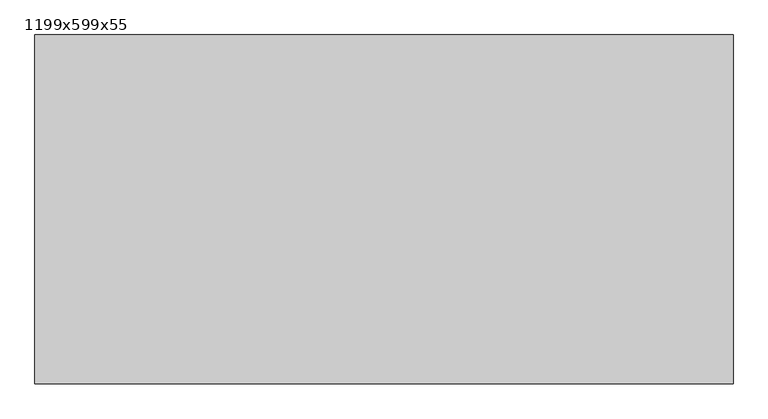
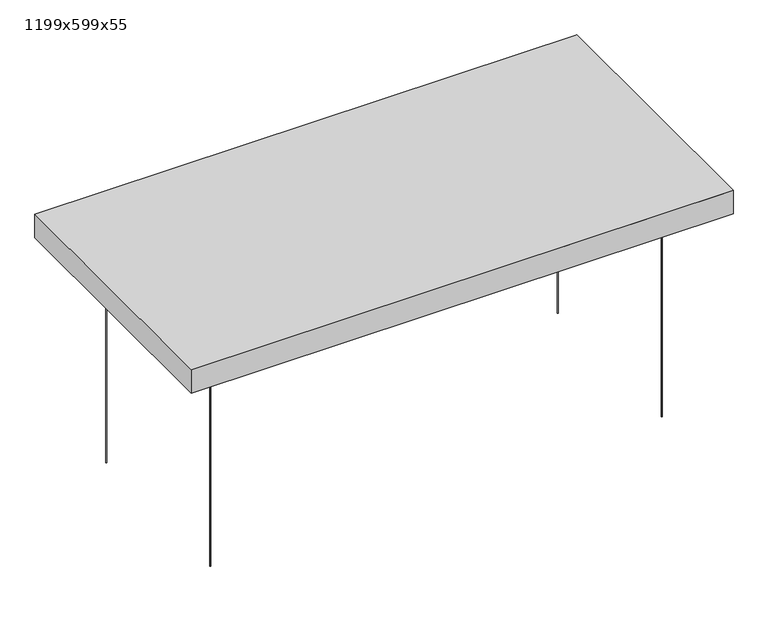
"""IFC4 building model written with IfcOpenShell, lengths in millimetres: proxy geometry, Texaa Panneaux_acoustiques Stereo suspendus_séparés : 1199x599x55."""

from ifc_helpers import new_model, si_unit, point, frame, frame_2d, origin, origin_with_axes, place, context, project, spatial, polyline, circle_curve, trimmed, segment, composite_curve, outline, extrude, faceted_brep, source, transform, mapped, element, save


def proxy_1199x599x55_33c4f349(model_context):
    return source(origin(), model_context, "Body", "SolidModel", [
        extrude(outline(composite_curve([segment(trimmed(circle_curve(frame_2d((-499.5, -199.5)), 0.75), [point((-500.25, -199.5))], [point((-498.75, -199.5))], False, "CARTESIAN"), True, "CONTINUOUS"), segment(trimmed(circle_curve(frame_2d((-499.5, -199.5)), 0.75), [point((-498.75, -199.5))], [point((-500.25, -199.5))], False, "CARTESIAN"), True, "CONTINUOUS")], self_intersect=False)), origin_with_axes(), (0.0, 0.0, 1.0), 500.0),
        extrude(outline(composite_curve([segment(trimmed(circle_curve(frame_2d((499.5, -199.5)), 0.75), [point((498.75, -199.5))], [point((500.25, -199.5))], False, "CARTESIAN"), True, "CONTINUOUS"), segment(trimmed(circle_curve(frame_2d((499.5, -199.5)), 0.75), [point((500.25, -199.5))], [point((498.75, -199.5))], False, "CARTESIAN"), True, "CONTINUOUS")], self_intersect=False)), origin_with_axes(), (0.0, 0.0, 1.0), 500.0),
        extrude(outline(composite_curve([segment(trimmed(circle_curve(frame_2d((499.5, 199.5)), 0.75), [point((498.75, 199.5))], [point((500.25, 199.5))], False, "CARTESIAN"), True, "CONTINUOUS"), segment(trimmed(circle_curve(frame_2d((499.5, 199.5)), 0.75), [point((500.25, 199.5))], [point((498.75, 199.5))], False, "CARTESIAN"), True, "CONTINUOUS")], self_intersect=False)), origin_with_axes(), (0.0, 0.0, 1.0), 500.0),
        extrude(outline(composite_curve([segment(trimmed(circle_curve(frame_2d((-499.5, 199.5)), 0.75), [point((-500.25, 199.5))], [point((-498.75, 199.5))], False, "CARTESIAN"), True, "CONTINUOUS"), segment(trimmed(circle_curve(frame_2d((-499.5, 199.5)), 0.75), [point((-498.75, 199.5))], [point((-500.25, 199.5))], False, "CARTESIAN"), True, "CONTINUOUS")], self_intersect=False)), origin_with_axes(), (0.0, 0.0, 1.0), 500.0),
        extrude(outline(polyline([(-598.5, -298.5), (-598.5, 298.5), (598.5, 298.5), (598.5, -298.5), (-598.5, -298.5)])), frame((0.0, 0.0, 501.0), z_axis=(0.0, 0.0, 1.0), x_axis=(1.0, 0.0, 0.0)), (0.0, 0.0, 1.0), 53.0),
        faceted_brep([(599.5, 299.5, 555.0), (597.2624387, 299.5, 555.0), (476.4341284, 299.5, 555.0), (-599.5, 299.5, 555.0), (-599.5, -238.0183844, 555.0), (-599.5, -298.3821524, 555.0), (-599.5, -299.5, 555.0), (599.5, -299.5, 555.0), (-599.5, -299.5, 500.0), (-599.5, 299.5, 500.0), (599.5, 299.5, 500.0), (599.5, -299.5, 500.0), (-549.5, 249.5, 500.0), (-549.5, -249.5, 500.0), (549.5, -249.5, 500.0), (549.5, 249.5, 500.0), (-599.5, -299.5, 554.0), (599.5, 299.5, 554.0), (549.5, 249.5, 501.0), (-549.5, 249.5, 501.0), (549.5, -249.5, 501.0), (-549.5, -249.5, 501.0), (598.5, -298.5, 554.0), (-597.4983306, -298.5, 554.0), (-598.5, -298.5, 554.0), (-598.5, -297.8825695, 554.0), (-598.5, -237.5188014, 554.0), (-598.5, 298.5, 554.0), (474.4324589, 298.5, 554.0), (595.2607692, 298.5, 554.0), (597.4983306, 298.5, 554.0), (598.5, 298.5, 554.0), (-598.5, -298.5, 501.0), (598.5, -298.5, 501.0), (598.5, 298.5, 501.0), (-598.5, 298.5, 501.0)], [[[0, 1, 2, 3, 4, 5, 6, 7]], [[8, 9, 10, 11], [12, 13, 14, 15]], [[8, 16, 6, 5, 4, 3, 9]], [[9, 3, 2, 1, 0, 17, 10]], [[7, 11, 10, 17, 0]], [[6, 16, 8, 11, 7]], [[12, 15, 18, 19]], [[15, 14, 20, 18]], [[14, 13, 21, 20]], [[19, 21, 13, 12]], [[22, 23, 24, 25, 26, 27, 28, 29, 30, 31]], [[32, 33, 34, 35], [18, 20, 21, 19]], [[35, 27, 26, 25, 24, 32]], [[34, 31, 30, 29, 28, 27, 35]], [[31, 34, 33, 22]], [[32, 24, 23, 22, 33]]]),
    ])


if __name__ == "__main__":
    model = new_model("IFC4")
    model_context = context("Model", 3, world=origin())
    ifc_project = project(units=[si_unit("LENGTHUNIT", "METRE", prefix="MILLI")], contexts=[model_context])
    site = spatial("IfcSite", under=ifc_project)
    building = spatial("IfcBuilding", under=site)
    placement = place(None, origin())
    proxy_1199x599x55_shape = proxy_1199x599x55_33c4f349(model_context)
    element("IfcBuildingElementProxy", 1, Name="Texaa Panneaux_acoustiques Stereo suspendus_séparés : 1199x599x55", ObjectType="Texaa Panneaux_acoustiques Stereo suspendus_séparés : 1199x599x55", at=placement, inside=building, context=model_context, shape_type="MappedRepresentation", body=[
        mapped(proxy_1199x599x55_shape, transform((0.0, 0.0, 0.0), x_axis=(1.0, 0.0, 0.0), y_axis=(0.0, 1.0, 0.0), z_axis=(0.0, 0.0, 1.0))),
    ])
    save(model, "model.ifc")
